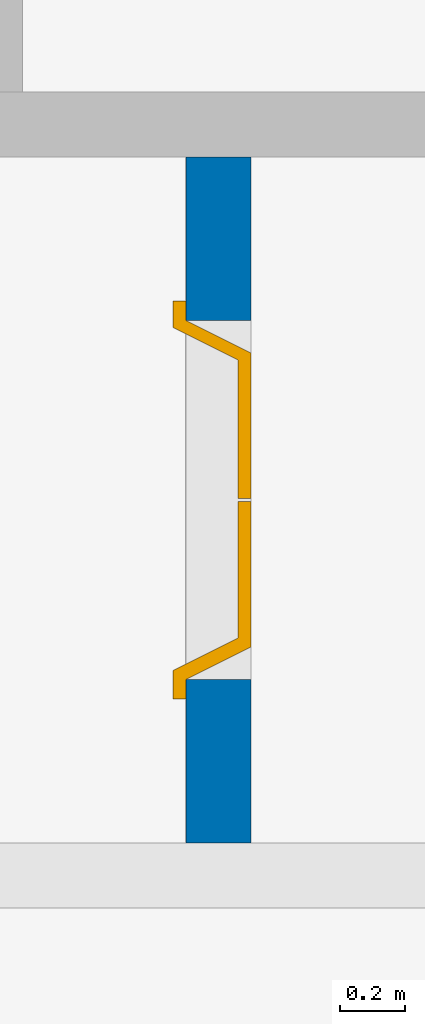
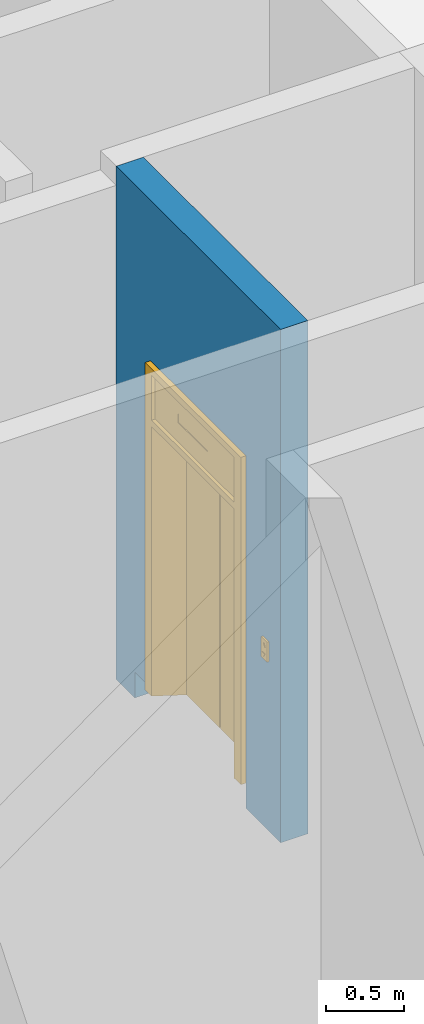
# One storey, part 21 of 30: 1 door, 1 wall, 1 opening.
"""IFC2X3 building model written with IfcOpenShell, lengths in millimetres."""

from ifc_helpers import new_model, entity, si_unit, converted_unit, derived_unit, direction, frame, frame_2d, origin, place, context, subcontext, project, spatial, rectangle, extrude, faceted_brep, source, transform, mapped, material, material_list, layer, layer_set, type_object, type_shapes, element, fill, save


model = new_model("IFC2X3")

# Units and contexts
model_context = context("Model", 3, precision=0.01, world=origin(), true_north=direction((6.123031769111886e-17, 1.0)))
body_context = subcontext(model_context, "Body", "Model", "MODEL_VIEW")
ifc_project = project(units=[si_unit("LENGTHUNIT", "METRE", prefix="MILLI"), si_unit("AREAUNIT", "SQUARE_METRE"), si_unit("VOLUMEUNIT", "CUBIC_METRE"), converted_unit("PLANEANGLEUNIT", "DEGREE", entity("IfcRatioMeasure", 0.017453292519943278), si_unit("PLANEANGLEUNIT", "RADIAN"), dimensions=[0, 0, 0, 0, 0, 0, 0]), si_unit("MASSUNIT", "GRAM", prefix="KILO"), derived_unit("MASSDENSITYUNIT", [(si_unit("MASSUNIT", "GRAM", prefix="KILO"), 1), (si_unit("LENGTHUNIT", "METRE"), -3)]), derived_unit("MOMENTOFINERTIAUNIT", [(si_unit("LENGTHUNIT", "METRE"), 4)]), si_unit("TIMEUNIT", "SECOND"), si_unit("FREQUENCYUNIT", "HERTZ"), si_unit("THERMODYNAMICTEMPERATUREUNIT", "DEGREE_CELSIUS"), derived_unit("THERMALTRANSMITTANCEUNIT", [(si_unit("MASSUNIT", "GRAM", prefix="KILO"), 1), (si_unit("THERMODYNAMICTEMPERATUREUNIT", "KELVIN"), -1), (si_unit("TIMEUNIT", "SECOND"), -3)]), derived_unit("VOLUMETRICFLOWRATEUNIT", [(si_unit("LENGTHUNIT", "METRE"), 3), (si_unit("TIMEUNIT", "SECOND"), -1)]), derived_unit("MASSFLOWRATEUNIT", [(si_unit("MASSUNIT", "GRAM", prefix="KILO"), 1), (si_unit("TIMEUNIT", "SECOND"), -1)]), derived_unit("ROTATIONALFREQUENCYUNIT", [(si_unit("TIMEUNIT", "SECOND"), -1)]), si_unit("ELECTRICCURRENTUNIT", "AMPERE"), si_unit("ELECTRICVOLTAGEUNIT", "VOLT"), si_unit("POWERUNIT", "WATT"), si_unit("FORCEUNIT", "NEWTON", prefix="KILO"), si_unit("ILLUMINANCEUNIT", "LUX"), si_unit("LUMINOUSFLUXUNIT", "LUMEN"), si_unit("LUMINOUSINTENSITYUNIT", "CANDELA"), derived_unit("USERDEFINED", [(si_unit("MASSUNIT", "GRAM", prefix="KILO"), -1), (si_unit("LENGTHUNIT", "METRE"), -2), (si_unit("TIMEUNIT", "SECOND"), 3), (si_unit("LUMINOUSFLUXUNIT", "LUMEN"), 1)]), derived_unit("SOUNDPOWERUNIT", [(si_unit("MASSUNIT", "GRAM", prefix="KILO"), 1), (si_unit("LENGTHUNIT", "METRE"), 2), (si_unit("TIMEUNIT", "SECOND"), -3)]), derived_unit("SOUNDPRESSUREUNIT", [(si_unit("MASSUNIT", "GRAM", prefix="KILO"), 1), (si_unit("LENGTHUNIT", "METRE"), -1), (si_unit("TIMEUNIT", "SECOND"), -2)]), derived_unit("LINEARVELOCITYUNIT", [(si_unit("LENGTHUNIT", "METRE"), 1), (si_unit("TIMEUNIT", "SECOND"), -1)]), si_unit("PRESSUREUNIT", "PASCAL"), derived_unit("USERDEFINED", [(si_unit("LENGTHUNIT", "METRE"), -2), (si_unit("MASSUNIT", "GRAM", prefix="KILO"), 1), (si_unit("TIMEUNIT", "SECOND"), -2)]), derived_unit("LINEARFORCEUNIT", [(si_unit("MASSUNIT", "GRAM", prefix="KILO"), 1), (si_unit("LENGTHUNIT", "METRE"), 1), (si_unit("TIMEUNIT", "SECOND"), -2), (si_unit("LENGTHUNIT", "METRE"), -1)]), derived_unit("PLANARFORCEUNIT", [(si_unit("MASSUNIT", "GRAM", prefix="KILO"), 1), (si_unit("LENGTHUNIT", "METRE"), 1), (si_unit("TIMEUNIT", "SECOND"), -2), (si_unit("LENGTHUNIT", "METRE"), -2)])], contexts=[model_context])

# Site, building, storey
site_placement = place(None, frame((-14167.972527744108, -657.2125860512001, 0.0)))
site = spatial("IfcSite", under=ifc_project, at=site_placement, Name="Default", CompositionType="ELEMENT")
building_placement = place(site_placement, origin())
building = spatial("IfcBuilding", under=site, at=building_placement, Name="Sample Building", CompositionType="ELEMENT")
storey_placement = place(building_placement, frame((0.0, 0.0, -10100.0)))
storey = spatial("IfcBuildingStorey", under=building, at=storey_placement, Name="지하2층", CompositionType="ELEMENT", Elevation=-10100.0)

# Wall, opening, door
ifc_material_1 = material(Name="KBIMS-콘크리트")
ifc_layer = layer(ifc_material_1, 200.0)
ifc_layer_set = layer_set([ifc_layer], Name="기본 벽:WA111-철근콘크리트구조 벽 200mm_CW1")
wall_type = type_object("IfcWallType", Name="기본 벽:WA111-철근콘크리트구조 벽 200mm_CW1", PredefinedType="STANDARD", material=ifc_layer_set)
wall_placement = place(storey_placement, frame((33667.97249113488, 22257.212311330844, 0.0), z_axis=(0.0, 0.0, 1.0), x_axis=(0.0, -1.0, 0.0)))
wall = element("IfcWall", 1, at=wall_placement, inside=storey, type_object=wall_type, Name="기본 벽:WA111-철근콘크리트구조 벽 200mm_CW1", ObjectType="기본 벽:WA111-철근콘크리트구조 벽 200mm_CW1", context=body_context, shape_type="Brep", body=[
    faceted_brep([(2100.0, -100.0, 4000.0), (0.0, -100.0, 4000.0), (0.0, -100.0, 3850.0), (0.0, -100.0, 200.0), (0.0, -100.0, 0.0), (237.73651755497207, -100.0, 0.0), (237.73651755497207, -100.0, 200.0), (500.0000016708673, -100.0, 200.0), (500.0000016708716, -100.0, 2750.0), (1600.0, -100.0, 2750.0), (1600.0, -100.0, 200.0), (1660.0, -100.0, 200.0), (1660.0, -100.0, 0.0), (2100.0, -100.0, 0.0), (2100.0, -100.0, 200.0), (2100.0, -100.0, 3850.0), (0.0, 100.0, 4000.0), (2100.0, 100.0, 4000.0), (2100.0, 100.0, 0.0), (1660.0, 100.0, 0.0), (1660.0, 100.0, 200.0), (1600.0, 100.0, 200.0), (1600.0, 100.0, 2750.0), (500.0000016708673, 100.0, 2750.0), (500.0000016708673, 100.0, 200.0), (237.73651755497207, 100.0, 200.0), (237.73651755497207, 100.0, 0.0), (0.0, 100.0, 0.0)], [[[0, 1, 2, 3, 4, 5, 6, 7, 8, 9, 10, 11, 12, 13, 14, 15]], [[16, 17, 18, 19, 20, 21, 22, 23, 24, 25, 26, 27]], [[4, 27, 26, 5]], [[1, 0, 17, 16]], [[1, 16, 27, 4, 3, 2]], [[13, 18, 17, 0, 15, 14]], [[8, 7, 24, 23]], [[9, 8, 23, 22]], [[10, 9, 22, 21]], [[6, 25, 24, 7]], [[11, 20, 19, 12]], [[25, 6, 5, 26]], [[20, 11, 10, 21]], [[18, 13, 12, 19]]]),
])
opening_placement = place(wall_placement, frame((500.0000016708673, -100.0, 200.0)))
opening = element("IfcOpeningElement", 2, at=opening_placement, cuts=wall, Name="EE111-엘리베이터문(문):EE111-엘리베이터문(13인승)_1100x2550:1", ObjectType="Opening", context=body_context, shape_type="SweptSolid", body=[
    extrude(rectangle(XDim=2549.999999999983, YDim=1099.9999999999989, at=frame_2d((1274.9999999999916, 550.0000000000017), x_axis=(1.0, 0.0))), frame((0.0, 0.0, 0.0), z_axis=(0.0, 1.0, 0.0), x_axis=(0.0, 0.0, 1.0)), (0.0, 0.0, 1.0), 200.0),
])
ifc_material_2 = material(Name="<Unnamed>")
ifc_material_list = material_list([ifc_material_2, ifc_material_2, ifc_material_2, ifc_material_2])
door_style = type_object("IfcDoorStyle", Name="EE111-엘리베이터문(문):EE111-엘리베이터문(13인승)_1100x2550", ConstructionType="NOTDEFINED", OperationType="DOUBLE_DOOR_SLIDING", ParameterTakesPrecedence=False, Sizeable=False, material=ifc_material_list)
shared_shape = source(origin(), body_context, "Body", "Brep", [
    faceted_brep([(-296.2736811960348, 220.43384628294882, 1175.0), (-313.5941892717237, 220.4338462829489, 1145.0), (-330.9146973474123, 220.43384628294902, 1175.0), (-296.2736811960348, 215.04269782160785, 1175.0), (-330.9146973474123, 215.0426978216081, 1175.0), (-313.5941892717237, 215.04269782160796, 1145.0)], [[[0, 1, 2]], [[3, 4, 5]], [[1, 0, 3, 5]], [[2, 1, 5, 4]], [[0, 2, 4, 3]]]),
    faceted_brep([(-330.9146973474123, 220.43384628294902, 1225.0), (-296.2736811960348, 220.43384628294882, 1225.0), (-296.2736811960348, 215.04269782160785, 1225.0), (-330.9146973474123, 215.04269782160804, 1225.0), (-313.5941892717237, 220.4338462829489, 1255.0), (-313.5941892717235, 215.04269782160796, 1255.0)], [[[0, 1, 2, 3]], [[4, 0, 3, 5]], [[1, 4, 5, 2]], [[2, 5, 3]], [[1, 0, 4]]]),
    faceted_brep([(-351.5567877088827, 215.0426978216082, 1277.0326998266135), (-275.63159083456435, 215.04269782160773, 1277.0326998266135), (-275.63159083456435, 215.04269782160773, 1122.967300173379), (-351.5567877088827, 215.0426978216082, 1122.967300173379), (-351.55678770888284, 200.0, 1277.0326998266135), (-351.55678770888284, 200.0, 1122.967300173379), (-275.6315908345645, 200.0, 1122.967300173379), (-275.6315908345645, 200.0, 1277.0326998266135)], [[[0, 1, 2, 3]], [[4, 5, 6, 7]], [[1, 0, 4, 7]], [[2, 1, 7, 6]], [[3, 2, 6, 5]], [[0, 3, 5, 4]]]),
    faceted_brep([(-60.0, 200.0, 2550.0), (-60.0, 240.0, 2550.0), (-60.0, 240.0, 0.0), (-60.0, 200.0, 0.0), (703.014298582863, 240.0, 2550.0), (703.014298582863, 240.0, 2500.0), (27.911234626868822, 240.0, 2500.0), (27.911234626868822, 240.0, 2150.0), (703.014298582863, 240.0, 2150.0), (703.014298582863, 240.0, 2100.0), (27.911234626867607, 240.0, 2100.0), (27.911234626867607, 240.0, 0.0), (978.5926496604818, 40.0, 0.0), (1078.5926496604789, 240.0, 0.0), (1160.0, 240.0, 0.0), (1160.0, 200.0, 0.0), (1100.0, 200.0, 0.0), (1000.0, 0.0, 0.0), (555.0, 0.0, 0.0), (555.0, 40.0, 0.0), (0.0, 200.0, 2550.0), (0.0, 200.0, 0.0), (100.0, 0.0, 2550.0), (100.0, 0.0, 0.0), (1000.0, 0.0, 2550.0), (545.0, 0.0, 0.0), (545.0, 0.0, 2100.0), (555.0, 0.0, 2100.0), (545.0, 40.0, 0.0), (545.0, 40.0, 2100.0), (555.0, 40.0, 2100.0), (1100.0, 200.0, 2550.0), (1160.0, 200.0, 2550.0), (1160.0, 240.0, 2550.0), (1078.5926496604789, 240.0, 2100.0), (1078.5926496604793, 240.0, 2150.0), (1078.5926496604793, 240.0, 2500.0), (978.5926496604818, 40.0, 2100.0), (127.91123462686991, 40.0, 0.0), (127.91123462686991, 40.0, 2100.0), (1078.5926496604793, 214.08728771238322, 2150.0), (1078.5926496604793, 214.08728771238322, 2500.0), (27.911234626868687, 214.0872877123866, 2500.0), (27.911234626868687, 214.0872877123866, 2150.0), (550.0, 214.08728771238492, 2370.0), (410.8272722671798, 214.08728771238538, 2370.0), (410.8272722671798, 214.08728771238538, 2300.0), (550.0, 214.08728771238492, 2300.0), (789.172727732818, 214.08728771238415, 2300.0), (789.172727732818, 214.08728771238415, 2370.0), (550.0, 208.4787281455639, 2370.0), (410.8272722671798, 208.47872814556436, 2370.0), (410.8272722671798, 208.47872814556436, 2300.0), (789.172727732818, 208.47872814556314, 2300.0), (789.172727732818, 208.47872814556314, 2370.0), (550.0, 208.4787281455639, 2300.0)], [[[0, 1, 2, 3]], [[2, 1, 4, 5, 6, 7, 8, 9, 10, 11]], [[12, 13, 14, 15, 16, 17, 18, 19]], [[20, 0, 3, 21]], [[22, 20, 21, 23]], [[24, 22, 23, 25, 26, 27, 18, 17]], [[25, 28, 29, 26]], [[19, 18, 27, 30]], [[31, 24, 17, 16]], [[32, 31, 16, 15]], [[33, 32, 15, 14]], [[4, 33, 14, 13, 34, 9, 8, 35, 36, 5]], [[13, 12, 37, 34]], [[38, 11, 10, 39]], [[38, 39, 29, 28]], [[37, 12, 19, 30]], [[1, 0, 20, 22, 24, 31, 32, 33, 4]], [[40, 41, 36, 35]], [[41, 42, 6, 5, 36]], [[42, 43, 7, 6]], [[43, 42, 41, 40], [44, 45, 46, 47, 48, 49]], [[50, 51, 45, 44]], [[51, 52, 46, 45]], [[53, 54, 49, 48]], [[54, 50, 44, 49]], [[50, 54, 53, 55, 52, 51]], [[10, 9, 34, 37, 30, 27, 26, 29, 39]], [[43, 40, 35, 8, 7]], [[52, 55, 47, 46]], [[55, 53, 48, 47]], [[21, 3, 2, 11, 38, 28, 25, 23]]]),
])
type_shapes(door_style, [shared_shape])
door_placement = place(opening_placement, frame((1100.0, 200.0, 0.0), z_axis=(0.0, 0.0, 1.0), x_axis=(-1.0, 0.0, 0.0)))
door = element("IfcDoor", 3, at=door_placement, inside=storey, type_object=door_style, material=ifc_material_2, Name="EE111-엘리베이터문(문):EE111-엘리베이터문(13인승)_1100x2550", ObjectType="EE111-엘리베이터문(문):EE111-엘리베이터문(13인승)_1100x2550", OverallHeight=2549.999999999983, OverallWidth=1100.0000000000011, context=body_context, shape_type="MappedRepresentation", body=[
    mapped(shared_shape, transform((0.0, 0.0, 0.0), scale=1.0)),
])
fill(opening, door)

save(model, "model.ifc")
